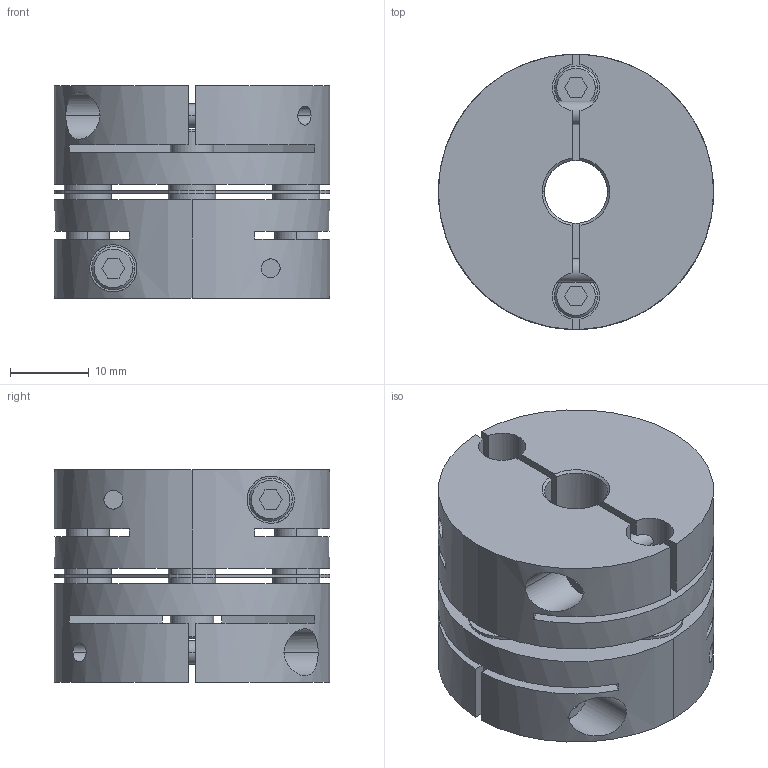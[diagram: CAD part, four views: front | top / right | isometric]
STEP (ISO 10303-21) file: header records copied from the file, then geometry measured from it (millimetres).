
FILE_DESCRIPTION((''),'2;1');
FILE_NAME('LAS-35C-8×10.stp','2011-08-10T16:34:59',(''),(''),'AutoCAD STEP 2000i','AutoCAD 2000i',', , ');
FILE_SCHEMA(('CONFIG_CONTROL_DESIGN'));
Length unit declared in the file: millimetre
Products named in the file (5): LAS-35C-8×8; 忣兜1; LA-3502-D08-1; LA-3502-D08; LAS35-ITA
Assembly tree (4 placements, depth 2):
  LAS-35C-8×8
    忣兜1
    LA-3502-D08-1
    LA-3502-D08
    LAS35-ITA
Bounding box: 35 x 35 x 27 mm (x, y, z)
Volume: 20133 mm3; surface area: 12145.3 mm2
Topology: 1 solids, 1 shells, 236 faces, 624 edges, 408 vertices
Faces by surface type: plane 112, cylinder 96, cone 28
Entity records: 8143 total; most frequent: CARTESIAN_POINT 1949, DIRECTION 1302, ORIENTED_EDGE 1248, EDGE_CURVE 624, AXIS2_PLACEMENT_3D 477, VERTEX_POINT 408, VECTOR 348, LINE 348
